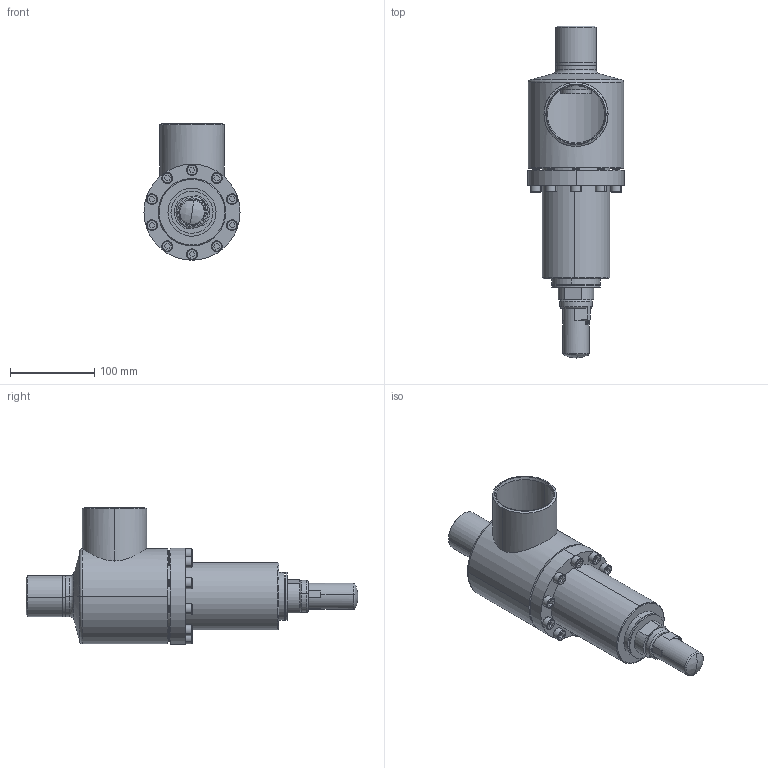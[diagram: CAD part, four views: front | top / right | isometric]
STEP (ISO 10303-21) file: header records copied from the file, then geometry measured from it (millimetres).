
FILE_DESCRIPTION (( 'STEP AP214' ), '1' );
FILE_NAME ('ORV 452AE-D14-DN40''65_R1_PS40.STEP', '2010-06-17T08:38:52', ( 'Eckhard Grams' ), ( 'AWP Kälte Klima Armaturen GmbH' ), 'SwSTEP 2.0', 'SolidWorks 2002296', '' );
FILE_SCHEMA (( 'AUTOMOTIVE_DESIGN' ));
Length unit declared in the file: millimetre
Products named in the file (11): ORV 452AE-D14-DN40''65_R1_PS40; Kappe SVA-SVU-ORV_DN10-40 (M27x1,5)_Standard; Deckel_ORV_DN40-50_Standard; Geh-kpl43200E14-DN40''65_R1_PS40_Standard; Geh-körper,kpl43200E14-DN40_PS40_R1_Standard; Rohrstutzen43200E14-DN40''65_R1_STANDARD; Rohrstutzen-E43200E14-DN40_R1_STANDARD; bead43200E14-Geh-kpl-PS40_Standard; Haube-ORV-DN40-50_Standard; Loser-Fl44200E14-DN40-SVU_PS40_(DN40-50-SVA-ORV)_Standard; Zylinderschraube-DIN912-M 8x30_M 8x 25
Assembly tree (19 placements, depth 3):
  ORV 452AE-D14-DN40''65_R1_PS40
    Zylinderschraube-DIN912-M 8x30_M 8x 25  x10
    Geh-kpl43200E14-DN40''65_R1_PS40_Standard
      Geh-körper,kpl43200E14-DN40_PS40_R1_Standard
      Rohrstutzen43200E14-DN40''65_R1_STANDARD
      Rohrstutzen-E43200E14-DN40_R1_STANDARD
      bead43200E14-Geh-kpl-PS40_Standard
    Haube-ORV-DN40-50_Standard
    Deckel_ORV_DN40-50_Standard
    Kappe SVA-SVU-ORV_DN10-40 (M27x1,5)_Standard
    Loser-Fl44200E14-DN40-SVU_PS40_(DN40-50-SVA-ORV)_Standard
Bounding box: 114 x 394 x 162 mm (x, y, z)
Volume: 797997.1 mm3; surface area: 286776.7 mm2
Topology: 18 solids, 18 shells, 907 faces, 2376 edges, 1531 vertices
Faces by surface type: cylinder 578, plane 158, cone 90, torus 45, bspline 32, sphere 4
Entity records: 24959 total; most frequent: CARTESIAN_POINT 15462, ORIENTED_EDGE 1810, DIRECTION 1773, EDGE_CURVE 905, AXIS2_PLACEMENT_3D 725, VERTEX_POINT 577, EDGE_LOOP 444, FACE_OUTER_BOUND 376
